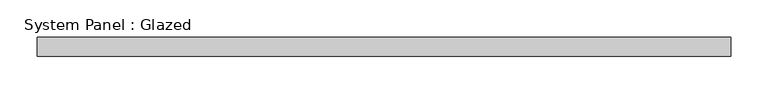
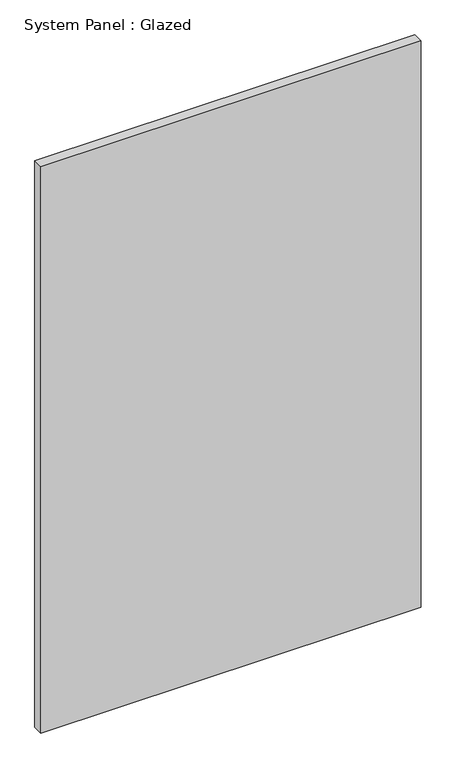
"""IFC4 building model written with IfcOpenShell, lengths in millimetres: plate geometry, System Panel : Glazed."""

from ifc_helpers import new_model, si_unit, origin, origin_with_axes, place, context, project, spatial, polyline, outline, extrude, source, transform, mapped, element, save


def system_panel_glazed_35008834(model_context):
    return source(origin(), model_context, "Body", "SweptSolid", [
        extrude(outline(polyline([(462.5, -49.5), (-462.5, -49.5), (-462.5, -24.5), (462.5, -24.5), (462.5, -49.5)])), origin_with_axes(), (0.0, 0.0, 1.0), 1455.2574105),
    ])


if __name__ == "__main__":
    model = new_model("IFC4")
    model_context = context("Model", 3, world=origin())
    ifc_project = project(units=[si_unit("LENGTHUNIT", "METRE", prefix="MILLI")], contexts=[model_context])
    site = spatial("IfcSite", under=ifc_project)
    building = spatial("IfcBuilding", under=site)
    placement = place(None, origin())
    system_panel_glazed_shape = system_panel_glazed_35008834(model_context)
    element("IfcPlate", 1, ObjectType="System Panel : Glazed", at=placement, inside=building, context=model_context, shape_type="MappedRepresentation", body=[
        mapped(system_panel_glazed_shape, transform((0.0, 0.0, 0.0), x_axis=(1.0, 0.0, 0.0), y_axis=(0.0, 1.0, 0.0), z_axis=(0.0, 0.0, 1.0))),
    ])
    save(model, "model.ifc")
